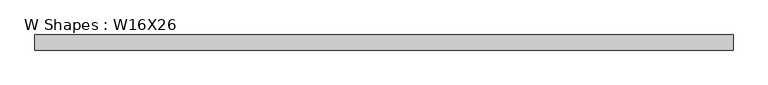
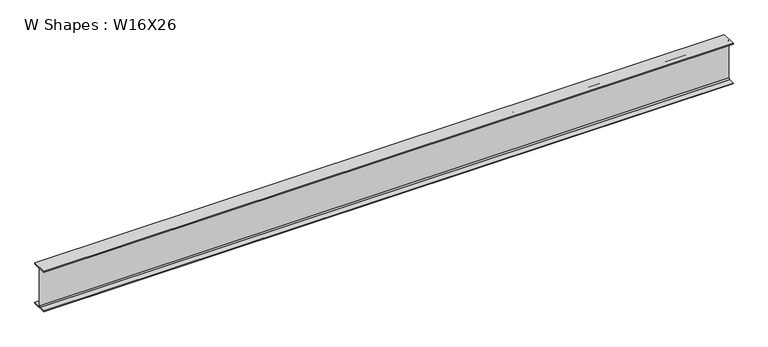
"""IFC4 building model written with IfcOpenShell, lengths in millimetres: beam geometry, W Shapes : W16X26."""

from ifc_helpers import new_model, si_unit, point, frame, frame_2d, origin, place, context, project, spatial, polyline, circle_curve, trimmed, segment, composite_curve, outline, extrude, source, transform, mapped, element, save


def w_shapes_w16x26_e0bbcaba(model_context):
    return source(origin(), model_context, "Body", "SweptSolid", [
        extrude(outline(composite_curve([segment(polyline([(69.85, -190.627), (69.85, -199.39), (-69.85, -199.39), (-69.85, -190.627), (-13.3858, -190.627)]), True, "CONTINUOUS"), segment(trimmed(circle_curve(frame_2d((-13.3858, -180.4162)), 10.2108), [point((-13.3858, -190.627))], [point((-3.175, -180.4162))], True, "CARTESIAN"), True, "CONTINUOUS"), segment(polyline([(-3.175, -180.4162), (-3.175, 180.4162)]), True, "CONTINUOUS"), segment(trimmed(circle_curve(frame_2d((-13.3858, 180.4162)), 10.2108), [point((-3.175, 180.4162))], [point((-13.3858, 190.627))], True, "CARTESIAN"), True, "CONTINUOUS"), segment(polyline([(-13.3858, 190.627), (-69.85, 190.627), (-69.85, 199.39), (69.85, 199.39), (69.85, 190.627), (13.3858, 190.627)]), True, "CONTINUOUS"), segment(trimmed(circle_curve(frame_2d((13.3858, 180.4162)), 10.2108), [point((13.3858, 190.627))], [point((3.175, 180.4162))], True, "CARTESIAN"), True, "CONTINUOUS"), segment(polyline([(3.175, 180.4162), (3.175, -180.4162)]), True, "CONTINUOUS"), segment(trimmed(circle_curve(frame_2d((13.3858, -180.4162)), 10.2108), [point((3.175, -180.4162))], [point((13.3858, -190.627))], True, "CARTESIAN"), True, "CONTINUOUS"), segment(polyline([(13.3858, -190.627), (69.85, -190.627)]), True, "CONTINUOUS")], self_intersect=False)), frame((-3203.1666989, 0.0, 0.0), z_axis=(1.0, 0.0, 0.0), x_axis=(0.0, 1.0, 0.0)), (0.0, 0.0, 1.0), 6431.7333977),
    ])


if __name__ == "__main__":
    model = new_model("IFC4")
    model_context = context("Model", 3, world=origin())
    ifc_project = project(units=[si_unit("LENGTHUNIT", "METRE", prefix="MILLI")], contexts=[model_context])
    site = spatial("IfcSite", under=ifc_project)
    building = spatial("IfcBuilding", under=site)
    placement = place(None, origin())
    w_shapes_w16x26_shape = w_shapes_w16x26_e0bbcaba(model_context)
    element("IfcBeam", 1, ObjectType="W Shapes : W16X26", at=placement, inside=building, context=model_context, shape_type="MappedRepresentation", body=[
        mapped(w_shapes_w16x26_shape, transform((0.0, 0.0, 0.0), x_axis=(1.0, 0.0, 0.0), y_axis=(0.0, 1.0, 0.0), z_axis=(0.0, 0.0, 1.0))),
    ])
    save(model, "model.ifc")
